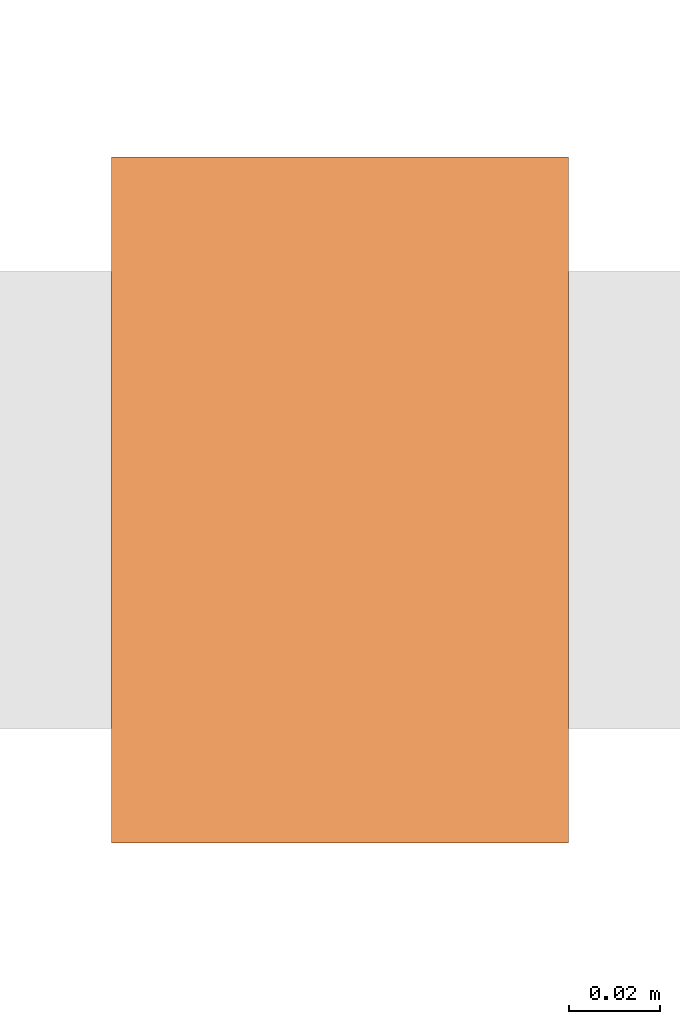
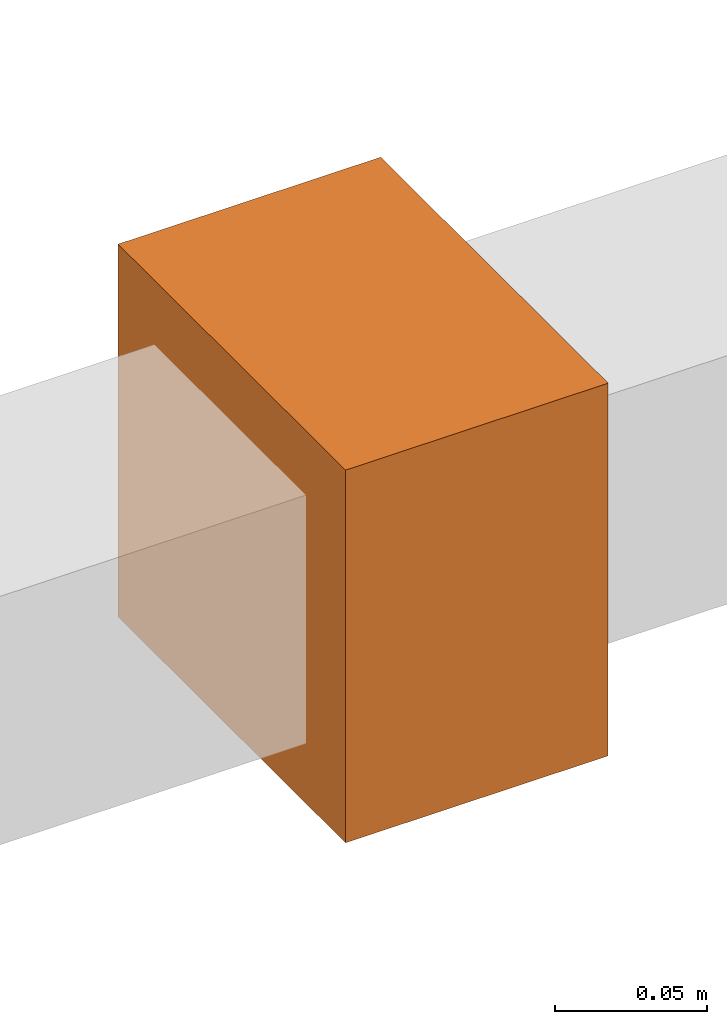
# One storey, part 21 of 22: 1 proxy.
"""IFC2X3 building model written with IfcOpenShell, lengths in millimetres."""

import ifcopenshell
import ifcopenshell.guid

model = None  # the IFC model being written
_history = None  # IfcOwnerHistory: only IFC2X3 demands one
_inside = {}  # id of a spatial element -> (the spatial element, [elements in it])
_under = {}  # id of a project, library or spatial element -> (it, [spatial elements below it])
_declared = {}  # id of a project -> (the project, [libraries it declares])
_typed = {}  # id of a type object -> (the type object, [elements of that type])
_made_of = {}  # id of a material, layer set ... -> (it, [elements and type objects made of it])


def new_model(schema):
    """Start an empty IFC model of exactly this schema.

    Asked for "IFC4X3", IfcOpenShell would pick the latest addendum, in which some entities
    have other attributes; the version numbers below select the first issue.
    IFC2X3 requires an IfcOwnerHistory on every rooted entity: one is made here for all.
    """
    global model, _history
    if schema == "IFC4X3":
        model = ifcopenshell.file(schema_version=(4, 3, 0, 0))
    else:
        model = ifcopenshell.file(schema=schema)
    _inside.clear()
    _under.clear()
    _declared.clear()
    _typed.clear()
    _made_of.clear()
    _history = None
    if model.schema == "IFC2X3":
        org = make("IfcOrganization", Name="unknown")
        user = make(
            "IfcPersonAndOrganization",
            ThePerson=make("IfcPerson", FamilyName="unknown"),
            TheOrganization=org,
        )
        app = make(
            "IfcApplication",
            ApplicationDeveloper=org,
            Version="unknown",
            ApplicationFullName="unknown",
            ApplicationIdentifier="unknown",
        )
        _history = make(
            "IfcOwnerHistory",
            OwningUser=user,
            OwningApplication=app,
            ChangeAction="ADDED",
            CreationDate=0,
        )
    return model


def make(cls, **values):
    """One entity of the class cls with the attributes given. An attribute that is None is left unset."""
    return model.create_entity(
        cls, **{name: value for name, value in values.items() if value is not None}
    )


def entity(cls, *values):
    """Any entity or typed value of the class cls, its attributes in the order of the schema. None: left unset."""
    e = model.create_entity(cls)
    for i, value in enumerate(values):
        if value is not None:
            e[i] = value
    return e


def rooted(cls, **values):
    """An entity with a GlobalId (a new one), such as an element, a storey or a relation."""
    return make(cls, GlobalId=ifcopenshell.guid.new(), OwnerHistory=_history, **values)


def si_unit(unit_type, name, prefix=None):
    """IfcSIUnit, for example si_unit("LENGTHUNIT", "METRE", prefix="MILLI")."""
    return make("IfcSIUnit", UnitType=unit_type, Prefix=prefix, Name=name)


def converted_unit(unit_type, name, factor, base, dimensions=None, offset=None):
    """IfcConversionBasedUnit, such as the inch: factor (a typed value) times the base unit."""
    return make(
        "IfcConversionBasedUnit"
        if offset is None
        else "IfcConversionBasedUnitWithOffset",
        ConversionOffset=offset,
        Dimensions=None
        if dimensions is None
        else entity("IfcDimensionalExponents", *dimensions),
        UnitType=unit_type,
        Name=name,
        ConversionFactor=make(
            "IfcMeasureWithUnit", ValueComponent=factor, UnitComponent=base
        ),
    )


def derived_unit(unit_type, elements):
    """IfcDerivedUnit: a product of units, each with its exponent."""
    return make(
        "IfcDerivedUnit",
        Elements=[
            make("IfcDerivedUnitElement", Unit=unit, Exponent=power)
            for unit, power in elements
        ],
        UnitType=unit_type,
    )


def assignment(units):
    """IfcUnitAssignment: the units of a project."""
    return None if units is None else make("IfcUnitAssignment", Units=units)


def point(xyz):
    """IfcCartesianPoint."""
    return None if xyz is None else make("IfcCartesianPoint", Coordinates=xyz)


def direction(xyz):
    """IfcDirection."""
    return None if xyz is None else make("IfcDirection", DirectionRatios=xyz)


def frame(location, z_axis=None, x_axis=None):
    """IfcAxis2Placement3D, a coordinate frame: its origin and axes. An axis left out is left unset."""
    return make(
        "IfcAxis2Placement3D",
        Location=point(location),
        Axis=direction(z_axis),
        RefDirection=direction(x_axis),
    )


def frame_2d(location, x_axis=None):
    """IfcAxis2Placement2D, a coordinate frame in the plane: its origin and x axis."""
    return make(
        "IfcAxis2Placement2D", Location=point(location), RefDirection=direction(x_axis)
    )


def origin():
    """The frame at (0, 0, 0) with its axes left unset."""
    return frame((0.0, 0.0, 0.0))


def origin_2d_with_axis():
    """The frame at (0, 0) in the plane with the x axis (1, 0) written out."""
    return frame_2d((0.0, 0.0), x_axis=(1.0, 0.0))


def place(relative_to, where):
    """IfcLocalPlacement: puts the frame where relative to a parent placement (None: the world)."""
    return make(
        "IfcLocalPlacement", PlacementRelTo=relative_to, RelativePlacement=where
    )


def context(
    kind, dimensions, precision=None, world=None, true_north=None, identifier=None
):
    """IfcGeometricRepresentationContext, for example the 3D "Model" context."""
    return make(
        "IfcGeometricRepresentationContext",
        ContextIdentifier=identifier,
        ContextType=kind,
        CoordinateSpaceDimension=dimensions,
        Precision=precision,
        WorldCoordinateSystem=world,
        TrueNorth=true_north,
    )


def subcontext(parent, identifier, kind, view, scale=None):
    """IfcGeometricRepresentationSubContext, for example "Body" below "Model"."""
    return make(
        "IfcGeometricRepresentationSubContext",
        ContextIdentifier=identifier,
        ContextType=kind,
        ParentContext=parent,
        TargetScale=scale,
        TargetView=view,
    )


def project(units=None, contexts=None):
    """IfcProject with its units and contexts."""
    return rooted(
        "IfcProject",
        Name="project",
        RepresentationContexts=contexts,
        UnitsInContext=assignment(units),
    )


def spatial(cls, under=None, at=None, **own):
    """A site, building, storey or space (cls), placed at a placement, below another one or the project."""
    s = rooted(cls, ObjectPlacement=at, **own)
    if under is not None:
        _under.setdefault(under.id(), (under, []))[1].append(s)
    return s


def profile(cls, at=None, kind="AREA", **sizes):
    """A parametric profile (cls). Its sizes go by their IFC names, for example OverallWidth=200.0."""
    return make(cls, ProfileType=kind, Position=at, **sizes)


def rectangle(**sizes):
    """IfcRectangleProfileDef."""
    return profile("IfcRectangleProfileDef", **sizes)


def extrude(swept, where, along, depth):
    """IfcExtrudedAreaSolid: the profile swept, set in the frame where, extruded along a direction by depth."""
    return make(
        "IfcExtrudedAreaSolid",
        SweptArea=swept,
        Position=where,
        ExtrudedDirection=direction(along),
        Depth=depth,
    )


def shape(context_of_items, identifier, shape_type, items):
    """IfcShapeRepresentation: the items that make up one representation, for example the "Body"."""
    return make(
        "IfcShapeRepresentation",
        ContextOfItems=context_of_items,
        RepresentationIdentifier=identifier,
        RepresentationType=shape_type,
        Items=items,
    )


def source(mapping_origin, context_of_items, identifier, shape_type, items):
    """IfcRepresentationMap: a shape defined once, which mapped items show again and again."""
    return make(
        "IfcRepresentationMap",
        MappingOrigin=mapping_origin,
        MappedRepresentation=shape(context_of_items, identifier, shape_type, items),
    )


def transform(
    local_origin,
    x_axis=None,
    y_axis=None,
    z_axis=None,
    scale=None,
    scale2=None,
    scale3=None,
    uniform=True,
):
    """IfcCartesianTransformationOperator3D, or its non-uniform kind. x_axis, y_axis, z_axis: its Axis1, 2, 3."""
    if uniform:
        return make(
            "IfcCartesianTransformationOperator3D",
            Axis1=direction(x_axis),
            Axis2=direction(y_axis),
            LocalOrigin=point(local_origin),
            Scale=scale,
            Axis3=direction(z_axis),
        )
    return make(
        "IfcCartesianTransformationOperator3DnonUniform",
        Axis1=direction(x_axis),
        Axis2=direction(y_axis),
        LocalOrigin=point(local_origin),
        Scale=scale,
        Axis3=direction(z_axis),
        Scale2=scale2,
        Scale3=scale3,
    )


def mapped(mapping_source, mapping_target):
    """IfcMappedItem: shows the shape of a source again, moved by a transform."""
    return make(
        "IfcMappedItem", MappingSource=mapping_source, MappingTarget=mapping_target
    )


def material(Name=None, Category=None):
    """IfcMaterial."""
    return make("IfcMaterial", Name=Name, Category=Category)


def made_of(thing, what):
    """Note that an element or type object is made of a material, layer set ...; save() writes the relation."""
    if what is not None:
        _made_of.setdefault(what.id(), (what, []))[1].append(thing)
    return thing


def type_object(cls, material=None, **own):
    """A type object (cls), such as IfcWallType, which elements share."""
    return made_of(rooted(cls, **own), material)


def type_shapes(of_type, sources):
    """Give a type object the sources (RepresentationMaps) that its elements show as mapped items."""
    of_type.RepresentationMaps = sources


def element(
    cls,
    number,
    at=None,
    inside=None,
    cuts=None,
    type_object=None,
    material=None,
    context=None,
    identifier="Body",
    shape_type=None,
    held_by="IfcProductDefinitionShape",
    body=None,
    shapes=None,
    **own,
):
    """One element of the class cls, such as IfcWall. Its Tag is "e" and its number.

    at: its placement. inside: the storey or other place that contains it. cuts: it is an
    opening in that element (IfcRelVoidsElement). A single representation is given by context,
    identifier, shape_type and body (its items); several are given by shapes. held_by: the class
    of the entity that holds the representations. save() writes the other relations.
    """
    e = rooted(cls, Tag="e%d" % number, ObjectPlacement=at, **own)
    if body is not None:
        shapes = [shape(context, identifier, shape_type, body)]
    if shapes is not None:
        e.Representation = make(held_by, Representations=shapes)
    if inside is not None:
        _inside.setdefault(inside.id(), (inside, []))[1].append(e)
    if cuts is not None:
        rooted(
            "IfcRelVoidsElement", RelatingBuildingElement=cuts, RelatedOpeningElement=e
        )
    if type_object is not None:
        _typed.setdefault(type_object.id(), (type_object, []))[1].append(e)
    return made_of(e, material)


def aggregate(whole, parts):
    """IfcRelAggregates: a whole, such as a stair, and the parts it consists of."""
    return rooted("IfcRelAggregates", RelatingObject=whole, RelatedObjects=parts)


def save(model, path):
    """Write the relations noted so far, then the file.

    IfcRelAggregates (storeys below a building ...), IfcRelContainedInSpatialStructure (elements
    in a storey), IfcRelDefinesByType, IfcRelAssociatesMaterial and IfcRelDeclares: one each for
    every whole, place, type object, material and project.
    """
    for whole, parts in _under.values():
        aggregate(whole, parts)
    for where, things in _inside.values():
        rooted(
            "IfcRelContainedInSpatialStructure",
            RelatedElements=things,
            RelatingStructure=where,
        )
    for kind, things in _typed.values():
        rooted("IfcRelDefinesByType", RelatedObjects=things, RelatingType=kind)
    for what, things in _made_of.values():
        rooted("IfcRelAssociatesMaterial", RelatedObjects=things, RelatingMaterial=what)
    for by, libraries in _declared.values():
        rooted("IfcRelDeclares", RelatingContext=by, RelatedDefinitions=libraries)
    model.write(path)


model = new_model("IFC2X3")

# Units and contexts
model_context = context("Model", 3, precision=0.01, world=origin(), true_north=direction((6.123233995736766e-17, 1.0)))
body_context = subcontext(model_context, "Body", "Model", "MODEL_VIEW")
ifc_project = project(units=[si_unit("LENGTHUNIT", "METRE", prefix="MILLI"), converted_unit("PLANEANGLEUNIT", "DEGREE", entity("IfcPlaneAngleMeasure", 0.017453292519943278), si_unit("PLANEANGLEUNIT", "RADIAN"), dimensions=[0, 0, 0, 0, 0, 0, 0]), si_unit("AREAUNIT", "SQUARE_METRE"), derived_unit("THERMALTRANSMITTANCEUNIT", [(si_unit("MASSUNIT", "GRAM", prefix="KILO"), 1), (si_unit("THERMODYNAMICTEMPERATUREUNIT", "KELVIN"), -1), (si_unit("TIMEUNIT", "SECOND"), -3)])], contexts=[model_context])

# Site, building, storey
site_placement = place(None, origin())
site = spatial("IfcSite", under=ifc_project, at=site_placement, Name="Default", CompositionType="ELEMENT")
building_placement = place(site_placement, origin())
building = spatial("IfcBuilding", under=site, at=building_placement, Name="Praça Pedro II, 1301 - Centro (Sul), Teresina - PI, 64001-100", CompositionType="ELEMENT")
storey_placement = place(building_placement, frame((0.0, 0.0, 320.0)))
storey = spatial("IfcBuildingStorey", under=building, at=storey_placement, Name="TÉRREO +0.32m", CompositionType="ELEMENT", Elevation=319.99999999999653)

# Proxy
ifc_material = material(Name="<Unnamed>")
building_element_proxy_type = type_object("IfcBuildingElementProxyType", Name="M_Control Damper - Opposed Blade (Type):100X105", PredefinedType="NOTDEFINED", material=ifc_material)
shared_shape = source(origin(), body_context, "Body", "SweptSolid", [
    extrude(rectangle(XDim=99.99999999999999, YDim=150.00000000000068, at=origin_2d_with_axis()), frame((0.0, 0.0, -75.0), z_axis=(0.0, 0.0, 1.0), x_axis=(-1.0, 0.0, 0.0)), (0.0, 0.0, 1.0), 150.0),
])
type_shapes(building_element_proxy_type, [shared_shape])
proxy_placement = place(storey_placement, frame((36501.12668621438, -51487.59413913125, 2225.0), z_axis=(0.0, 0.0, -1.0), x_axis=(-1.0, 0.0, 0.0)))
element("IfcBuildingElementProxy", 1, at=proxy_placement, inside=storey, type_object=building_element_proxy_type, material=ifc_material, Name="M_Control Damper - Opposed Blade (Type):100X105", ObjectType="M_Control Damper - Opposed Blade (Type):100X105", context=body_context, shape_type="MappedRepresentation", body=[
    mapped(shared_shape, transform((0.0, 0.0, 0.0), scale=1.0)),
])

save(model, "model.ifc")
